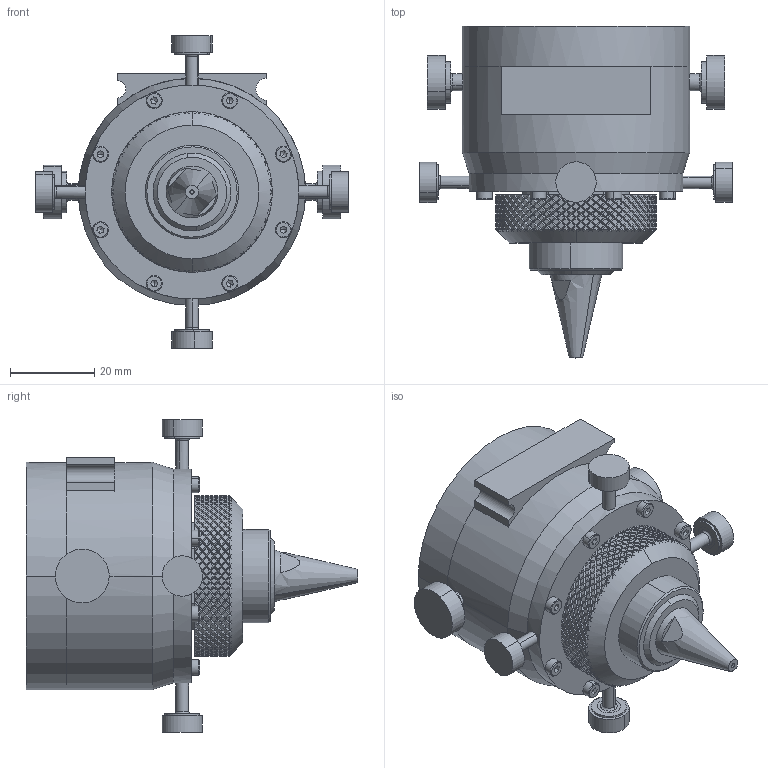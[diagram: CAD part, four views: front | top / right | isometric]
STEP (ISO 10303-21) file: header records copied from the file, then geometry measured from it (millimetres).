
FILE_DESCRIPTION (( 'STEP AP214' ), '1' );
FILE_NAME ('G1-25-25-064.STEP', '2016-10-27T20:03:01', ( '' ), ( '' ), 'SwSTEP 2.0', 'SolidWorks 2016', '' );
FILE_SCHEMA (( 'AUTOMOTIVE_DESIGN' ));
Length unit declared in the file: inch
Products named in the file (1): G1-25-25-064
Bounding box: 74.2 x 78.8 x 74.2 mm (x, y, z)
Volume: 102771 mm3; surface area: 23277 mm2
Topology: 1 solids, 1 shells, 2839 faces, 5960 edges, 3138 vertices
Faces by surface type: bspline 2000, cylinder 600, plane 176, cone 47, torus 12, sphere 4
Entity records: 85049 total; most frequent: CARTESIAN_POINT 47504, ORIENTED_EDGE 11888, EDGE_CURVE 5944, VERTEX_POINT 3138, DIRECTION 3119, EDGE_LOOP 2892, ADVANCED_FACE 2839, FACE_OUTER_BOUND 2839
